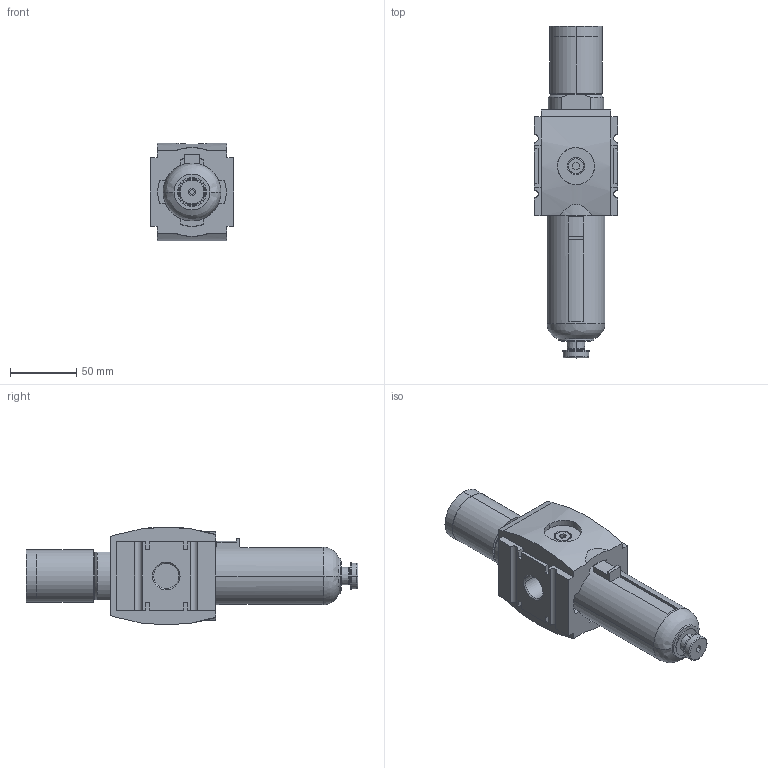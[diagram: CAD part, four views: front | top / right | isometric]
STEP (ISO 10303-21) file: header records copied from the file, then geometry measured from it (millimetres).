
FILE_DESCRIPTION((''),'2;1');
FILE_NAME('R412007221_ASM','2019-08-21T',('PDH2HC'),(''),'CREO PARAMETRIC BY PTC INC, 2016260','CREO PARAMETRIC BY PTC INC, 2016260','');
FILE_SCHEMA(('CONFIG_CONTROL_DESIGN'));
Length unit declared in the file: millimetre
Products named in the file (5): R412007221; AS3_RES_FILTER_SEMI; AS3_DRAIN_KNOB_PC; AS3_PLUG_14; R412007221_ASM
Assembly tree (4 placements, depth 2):
  R412007221_ASM
    R412007221
    AS3_RES_FILTER_SEMI
    AS3_DRAIN_KNOB_PC
    AS3_PLUG_14
Bounding box: 63 x 251 x 74 mm (x, y, z)
Volume: 525716.8 mm3; surface area: 68497.4 mm2
Topology: 4 solids, 4 shells, 220 faces, 540 edges, 352 vertices
Faces by surface type: plane 136, cylinder 56, cone 18, torus 8, bspline 2
Entity records: 6906 total; most frequent: CARTESIAN_POINT 1421, DIRECTION 1162, ORIENTED_EDGE 1080, EDGE_CURVE 540, AXIS2_PLACEMENT_3D 403, VECTOR 356, LINE 356, VERTEX_POINT 352
